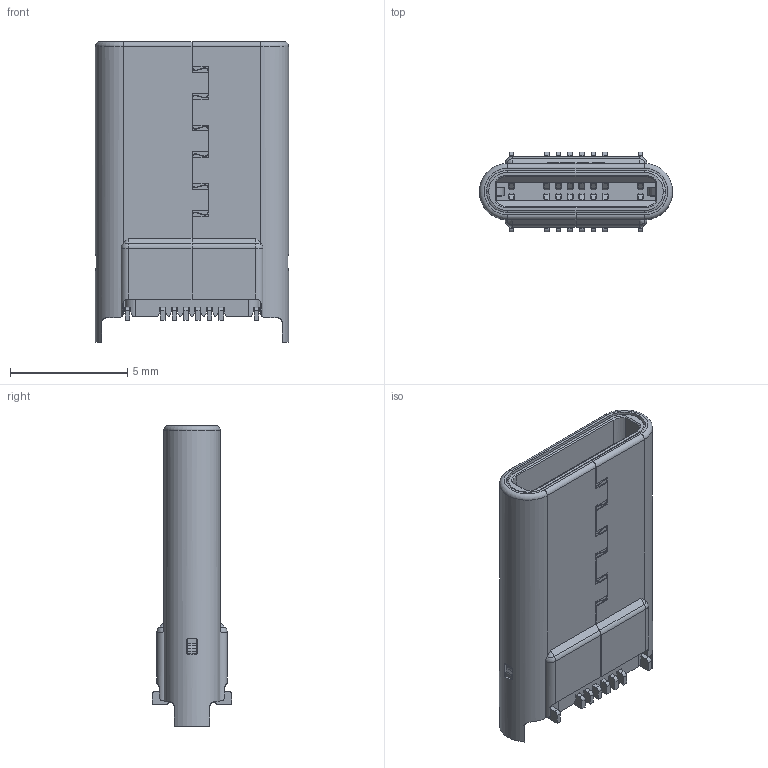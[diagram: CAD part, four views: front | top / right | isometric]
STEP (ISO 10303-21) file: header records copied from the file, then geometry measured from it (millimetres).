
FILE_DESCRIPTION((' '),'2;1');
FILE_NAME( 'U5380-16PE11.9L.stp', '2026-05-11T11:03:36', (' '), ('--- ---'), ' V2026.1 Dec 31 2025', ' 2026 (c)', ' ');
FILE_SCHEMA(('AP242_MANAGED_MODEL_BASED_3D_ENGINEERING_MIM_LF { 1 0 10303 442 1 1 4 }'));
Length unit declared in the file: millimetre
Products named in the file (3): _ASM0001_1; U5380-16PE11.9L(2); U5380-16PE11.9L
Assembly tree (2 placements, depth 3):
  U5380-16PE11.9L
    U5380-16PE11.9L(2)
      _ASM0001_1
Bounding box: 8.25 x 3.41 x 12.85 mm (x, y, z)
Volume: 163.9 mm3; surface area: 1265.8 mm2
Topology: 1 solids, 1 shells, 1383 faces, 4478 edges, 2945 vertices
Faces by surface type: plane 754, cylinder 576, bspline 29, cone 12, torus 8, sphere 4
Entity records: 51831 total; most frequent: CARTESIAN_POINT 11493, ORIENTED_EDGE 8938, DIRECTION 8139, EDGE_CURVE 4469, VECTOR 3115, LINE 3115, VERTEX_POINT 2945, AXIS2_PLACEMENT_3D 2512
